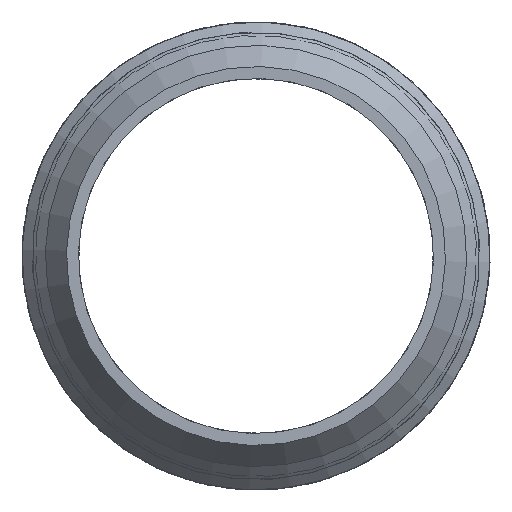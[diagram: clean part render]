
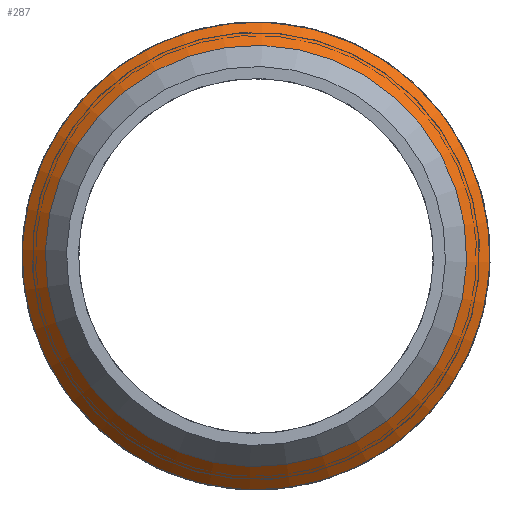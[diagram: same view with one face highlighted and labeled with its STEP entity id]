
A CAD part, front view. The second image highlights one B-rep face of the part: STEP entity #287.
In plain terms, the highlighted conical face has half-angle 45 degrees and reference radius 25.603 mm.
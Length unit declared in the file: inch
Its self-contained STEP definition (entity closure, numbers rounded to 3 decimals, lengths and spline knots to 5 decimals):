
#38=FACE_BOUND('',#87,.T.);
#62=FACE_OUTER_BOUND('',#86,.T.);
#86=EDGE_LOOP('',(#206));
#87=EDGE_LOOP('',(#207));
#134=CIRCLE('',#318,0.955);
#135=CIRCLE('',#319,1.061);
#158=VERTEX_POINT('',#465);
#159=VERTEX_POINT('',#467);
#182=EDGE_CURVE('',#158,#158,#134,.T.);
#183=EDGE_CURVE('',#159,#159,#135,.T.);
#206=ORIENTED_EDGE('',*,*,#182,.F.);
#207=ORIENTED_EDGE('',*,*,#183,.F.);
#254=CONICAL_SURFACE('',#317,1.008,45.);
#287=ADVANCED_FACE('',(#62,#38),#254,.T.);
#317=AXIS2_PLACEMENT_3D('',#464,#367,#368);
#318=AXIS2_PLACEMENT_3D('',#466,#369,#370);
#319=AXIS2_PLACEMENT_3D('',#468,#371,#372);
#367=DIRECTION('center_axis',(0.,1.,0.));
#368=DIRECTION('ref_axis',(-0.98,0.,0.201));
#369=DIRECTION('center_axis',(0.,-1.,0.));
#370=DIRECTION('ref_axis',(0.98,0.,-0.201));
#371=DIRECTION('center_axis',(0.,1.,0.));
#372=DIRECTION('ref_axis',(0.201,0.,0.98));
#464=CARTESIAN_POINT('Origin',(0.,0.7595,0.));
#465=CARTESIAN_POINT('',(-0.93549,0.7065,0.19206));
#466=CARTESIAN_POINT('Origin',(0.,0.7065,
0.));
#467=CARTESIAN_POINT('',(-1.03932,0.8125,0.21337));
#468=CARTESIAN_POINT('Origin',(0.,0.8125,0.));
